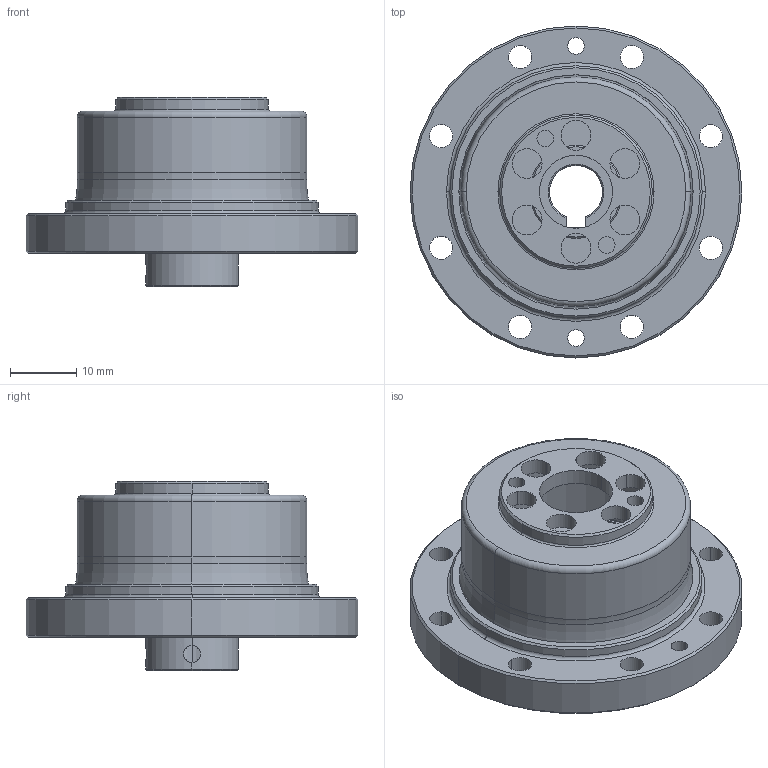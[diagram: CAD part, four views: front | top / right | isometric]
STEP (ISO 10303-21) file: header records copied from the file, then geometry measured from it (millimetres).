
FILE_DESCRIPTION (( 'STEP AP203' ), '1' );
FILE_NAME ('FCG-14-XXX-CJ.STEP', '2023-01-17T07:18:44', ( '微软用户' ), ( '微软中国' ), 'SwSTEP 2.0', 'SolidWorks 2016', '' );
FILE_SCHEMA (( 'CONFIG_CONTROL_DESIGN' ));
Length unit declared in the file: millimetre
Products named in the file (1): FCG-14-XXX-CJ
Bounding box: 50 x 50 x 28.5 mm (x, y, z)
Volume: 13557.6 mm3; surface area: 18472.3 mm2
Topology: 30 solids, 30 shells, 335 faces, 908 edges, 591 vertices
Faces by surface type: cylinder 160, plane 67, sphere 46, cone 32, torus 30
Entity records: 10212 total; most frequent: DIRECTION 1981, CARTESIAN_POINT 1825, ORIENTED_EDGE 1586, AXIS2_PLACEMENT_3D 868, EDGE_CURVE 793, CIRCLE 532, VERTEX_POINT 522, EDGE_LOOP 395
